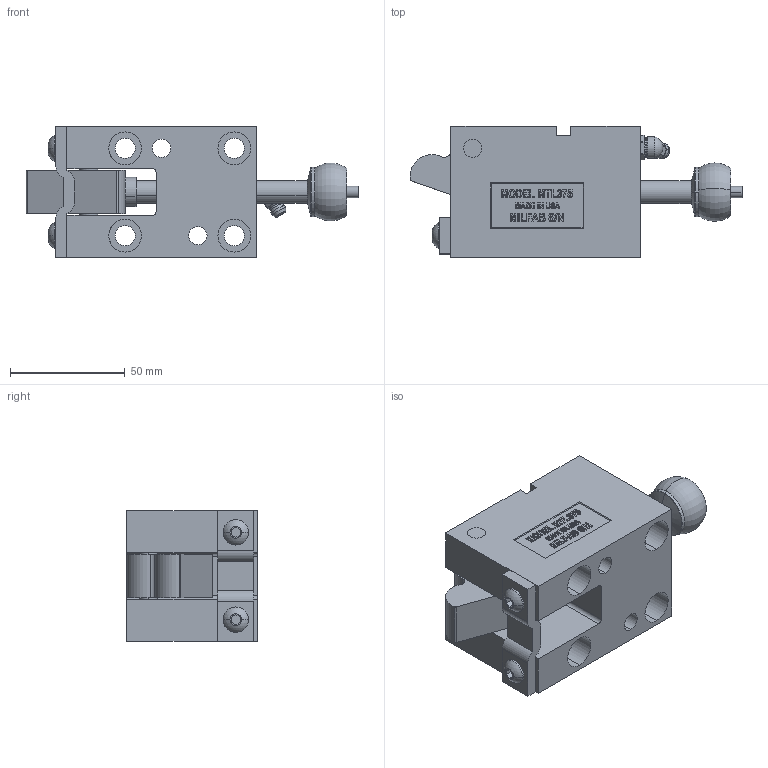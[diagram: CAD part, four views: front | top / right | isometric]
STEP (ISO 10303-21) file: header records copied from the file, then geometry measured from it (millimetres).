
FILE_DESCRIPTION (( 'STEP AP214' ), '1' );
FILE_NAME ('MTL375-C.STEP', '2014-01-06T23:06:56', ( 'user' ), ( '' ), 'SwSTEP 2.0', 'SolidWorks 2009', '' );
FILE_SCHEMA (( 'AUTOMOTIVE_DESIGN' ));
Length unit declared in the file: inch
Products named in the file (11): 375 PIVOT PIN; 375-I-STRAP; 375-TRIGGER; GREASE ZERK; 1-4 SCREW; 375 STRIPPER CLOSED; M-I-375-POINT; 375-WASHER; ML375-PUNCH; MTL375-C; MTL375-BODY
Assembly tree (11 placements, depth 2):
  MTL375-C
    375 PIVOT PIN
    GREASE ZERK
    375-I-STRAP
    1-4 SCREW  x2
    375-TRIGGER
    ML375-PUNCH
    375 STRIPPER CLOSED
    375-WASHER
    M-I-375-POINT
    MTL375-BODY
Bounding box: 144.87 x 57.27 x 57.15 mm (x, y, z)
Volume: 222891.3 mm3; surface area: 58590.3 mm2
Topology: 11 solids, 11 shells, 596 faces, 1541 edges, 1012 vertices
Faces by surface type: plane 355, cylinder 99, bspline 86, cone 30, torus 22, sphere 4
Entity records: 22952 total; most frequent: CARTESIAN_POINT 8820, ORIENTED_EDGE 2994, DIRECTION 2487, EDGE_CURVE 1497, LINE 1003, VECTOR 1003, VERTEX_POINT 986, AXIS2_PLACEMENT_3D 742
